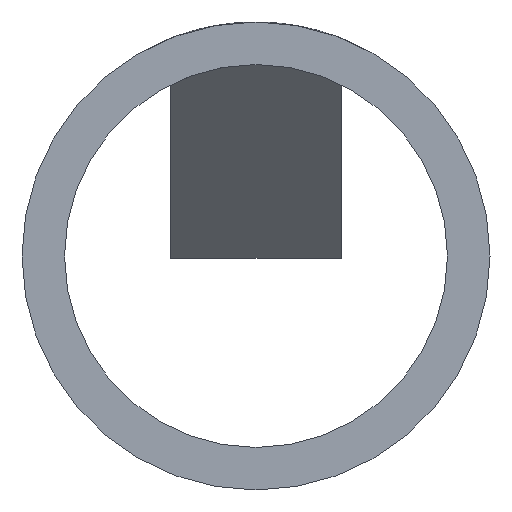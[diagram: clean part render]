
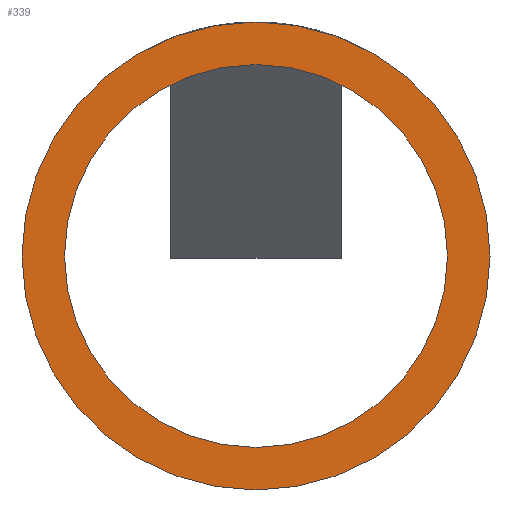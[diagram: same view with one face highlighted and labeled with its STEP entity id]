
A CAD part, front view. The second image highlights one B-rep face of the part: STEP entity #339.
In plain terms, the highlighted planar face has unit normal (0, -1, 0).
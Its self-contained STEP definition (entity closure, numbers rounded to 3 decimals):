
#25 = FACE_OUTER_BOUND ( 'NONE', #435, .T. ) ;
#38 = FACE_BOUND ( 'NONE', #428, .T. ) ;
#60 = EDGE_CURVE ( 'NONE', #288, #324, #474, .T. ) ;
#65 = EDGE_CURVE ( 'NONE', #300, #301, #491, .T. ) ;
#77 = AXIS2_PLACEMENT_3D ( 'NONE', #331, #329, #328 ) ;
#83 = EDGE_CURVE ( 'NONE', #324, #288, #449, .T. ) ;
#85 = AXIS2_PLACEMENT_3D ( 'NONE', #280, #269, #268 ) ;
#90 = AXIS2_PLACEMENT_3D ( 'NONE', #327, #313, #311 ) ;
#100 = EDGE_CURVE ( 'NONE', #301, #300, #487, .T. ) ;
#113 = AXIS2_PLACEMENT_3D ( 'NONE', #254, #244, #242 ) ;
#115 = AXIS2_PLACEMENT_3D ( 'NONE', #216, #204, #203 ) ;
#203 = DIRECTION ( 'NONE',  ( -1., 0., 0. ) ) ;
#204 = DIRECTION ( 'NONE',  ( 0., -1., 0. ) ) ;
#205 = PLANE ( 'NONE',  #115 ) ;
#216 = CARTESIAN_POINT ( 'NONE',  ( 0., 0., 0. ) ) ;
#218 = CARTESIAN_POINT ( 'NONE',  ( 5.5, 0., 0. ) ) ;
#224 = CARTESIAN_POINT ( 'NONE',  ( -4.5, 0., 0. ) ) ;
#225 = CARTESIAN_POINT ( 'NONE',  ( 4.5, 0., 0. ) ) ;
#227 = CARTESIAN_POINT ( 'NONE',  ( -5.5, 0., 0. ) ) ;
#242 = DIRECTION ( 'NONE',  ( -1., 0., 0. ) ) ;
#244 = DIRECTION ( 'NONE',  ( 0., -1., 0. ) ) ;
#254 = CARTESIAN_POINT ( 'NONE',  ( 0., 0., 0. ) ) ;
#268 = DIRECTION ( 'NONE',  ( -1., 0., 0. ) ) ;
#269 = DIRECTION ( 'NONE',  ( 0., -1., 0. ) ) ;
#280 = CARTESIAN_POINT ( 'NONE',  ( 0., 0., 0. ) ) ;
#288 = VERTEX_POINT ( 'NONE', #227 ) ;
#300 = VERTEX_POINT ( 'NONE', #225 ) ;
#301 = VERTEX_POINT ( 'NONE', #224 ) ;
#311 = DIRECTION ( 'NONE',  ( -1., 0., 0. ) ) ;
#313 = DIRECTION ( 'NONE',  ( 0., -1., 0. ) ) ;
#324 = VERTEX_POINT ( 'NONE', #218 ) ;
#327 = CARTESIAN_POINT ( 'NONE',  ( 0., 0., 0. ) ) ;
#328 = DIRECTION ( 'NONE',  ( -1., 0., 0. ) ) ;
#329 = DIRECTION ( 'NONE',  ( 0., -1., 0. ) ) ;
#331 = CARTESIAN_POINT ( 'NONE',  ( 0., 0., 0. ) ) ;
#339 = ADVANCED_FACE ( 'NONE', ( #25, #38 ), #205, .T. ) ;
#387 = ORIENTED_EDGE ( 'NONE', *, *, #83, .T. ) ;
#388 = ORIENTED_EDGE ( 'NONE', *, *, #60, .T. ) ;
#389 = ORIENTED_EDGE ( 'NONE', *, *, #65, .F. ) ;
#390 = ORIENTED_EDGE ( 'NONE', *, *, #100, .F. ) ;
#428 = EDGE_LOOP ( 'NONE', ( #389, #390 ) ) ;
#435 = EDGE_LOOP ( 'NONE', ( #387, #388 ) ) ;
#449 = CIRCLE ( 'NONE', #85, 5.5 ) ;
#474 = CIRCLE ( 'NONE', #77, 5.5 ) ;
#487 = CIRCLE ( 'NONE', #113, 4.5 ) ;
#491 = CIRCLE ( 'NONE', #90, 4.5 ) ;
